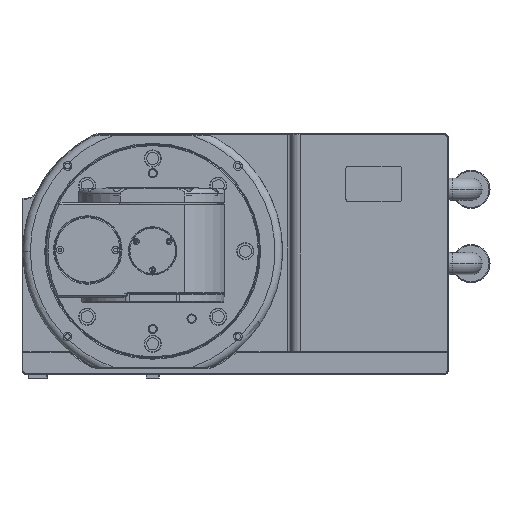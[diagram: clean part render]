
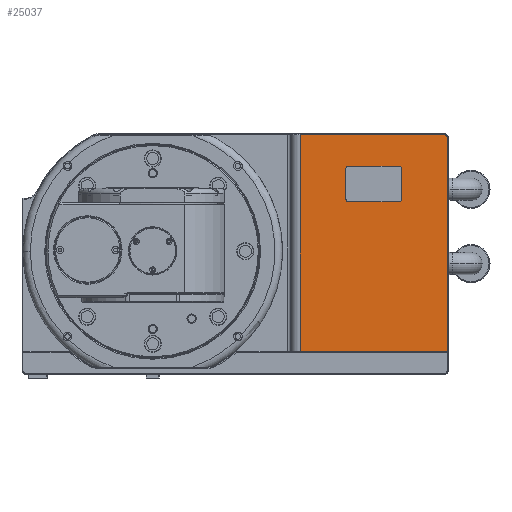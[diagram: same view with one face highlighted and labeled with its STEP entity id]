
A CAD part, top view. The second image highlights one B-rep face of the part: STEP entity #25037.
In plain terms, the highlighted planar face has unit normal (0, 0, 1).
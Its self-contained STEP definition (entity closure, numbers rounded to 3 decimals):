
#832 = ORIENTED_EDGE ( 'NONE', *, *, #24894, .F. ) ;
#1265 = CARTESIAN_POINT ( 'NONE',  ( 234.546, -134.359, 588.147 ) ) ;
#1515 = ORIENTED_EDGE ( 'NONE', *, *, #20523, .T. ) ;
#1592 = ORIENTED_EDGE ( 'NONE', *, *, #24663, .F. ) ;
#1752 = ORIENTED_EDGE ( 'NONE', *, *, #30373, .T. ) ;
#1935 = CARTESIAN_POINT ( 'NONE',  ( 75.546, 99.641, 588.147 ) ) ;
#3014 = EDGE_CURVE ( 'NONE', #8396, #31361, #21159, .T. ) ;
#3156 = CIRCLE ( 'NONE', #13882, 3. ) ;
#3855 = DIRECTION ( 'NONE',  ( 0., 0., -1. ) ) ;
#3971 = VECTOR ( 'NONE', #5570, 1000. ) ;
#4038 = VECTOR ( 'NONE', #18124, 1000. ) ;
#4202 = CARTESIAN_POINT ( 'NONE',  ( 65.546, -134.359, 588.147 ) ) ;
#4252 = CIRCLE ( 'NONE', #29006, 3. ) ;
#4363 = DIRECTION ( 'NONE',  ( -1., 0., 0. ) ) ;
#4537 = VECTOR ( 'NONE', #33795, 1000. ) ;
#4689 = CARTESIAN_POINT ( 'NONE',  ( 230.546, 95.641, 588.147 ) ) ;
#5570 = DIRECTION ( 'NONE',  ( 0., 1., 0. ) ) ;
#5756 = ORIENTED_EDGE ( 'NONE', *, *, #10942, .T. ) ;
#6084 = DIRECTION ( 'NONE',  ( 0., 1., 0. ) ) ;
#6491 = ORIENTED_EDGE ( 'NONE', *, *, #24105, .T. ) ;
#6755 = DIRECTION ( 'NONE',  ( -1., 0., 0. ) ) ;
#7753 = DIRECTION ( 'NONE',  ( 0., 0., -1. ) ) ;
#8276 = EDGE_LOOP ( 'NONE', ( #1515, #37377, #16338, #5756, #1752 ) ) ;
#8396 = VERTEX_POINT ( 'NONE', #33752 ) ;
#8586 = PLANE ( 'NONE',  #22242 ) ;
#9596 = LINE ( 'NONE', #10952, #24865 ) ;
#10313 = CARTESIAN_POINT ( 'NONE',  ( 230.546, 99.641, 588.147 ) ) ;
#10942 = EDGE_CURVE ( 'NONE', #31361, #24350, #31884, .T. ) ;
#10952 = CARTESIAN_POINT ( 'NONE',  ( 125.046, 27.141, 588.147 ) ) ;
#10989 = DIRECTION ( 'NONE',  ( -1., 0., 0. ) ) ;
#11348 = CARTESIAN_POINT ( 'NONE',  ( 234.546, -29.359, 588.147 ) ) ;
#11535 = EDGE_CURVE ( 'NONE', #37412, #20830, #27838, .T. ) ;
#11573 = VERTEX_POINT ( 'NONE', #36932 ) ;
#11701 = EDGE_CURVE ( 'NONE', #35947, #8396, #20117, .T. ) ;
#11949 = DIRECTION ( 'NONE',  ( -1., 0., 0. ) ) ;
#12711 = FACE_BOUND ( 'NONE', #14884, .T. ) ;
#12889 = DIRECTION ( 'NONE',  ( 0., 0., -1. ) ) ;
#13033 = LINE ( 'NONE', #35434, #4038 ) ;
#13469 = CARTESIAN_POINT ( 'NONE',  ( 182.546, 65.641, 588.147 ) ) ;
#13485 = LINE ( 'NONE', #22520, #4537 ) ;
#13844 = CARTESIAN_POINT ( 'NONE',  ( 125.046, 30.141, 588.147 ) ) ;
#13882 = AXIS2_PLACEMENT_3D ( 'NONE', #24206, #12889, #4363 ) ;
#14184 = CARTESIAN_POINT ( 'NONE',  ( 75.546, -134.359, 588.147 ) ) ;
#14389 = LINE ( 'NONE', #18757, #16205 ) ;
#14703 = CARTESIAN_POINT ( 'NONE',  ( 182.546, 62.641, 588.147 ) ) ;
#14884 = EDGE_LOOP ( 'NONE', ( #20997, #6491, #1592, #15691, #26902, #34017, #832, #22558 ) ) ;
#15595 = EDGE_CURVE ( 'NONE', #21100, #24470, #36472, .T. ) ;
#15691 = ORIENTED_EDGE ( 'NONE', *, *, #15595, .T. ) ;
#16205 = VECTOR ( 'NONE', #18881, 1000. ) ;
#16338 = ORIENTED_EDGE ( 'NONE', *, *, #3014, .T. ) ;
#16979 = CARTESIAN_POINT ( 'NONE',  ( 128.046, 65.641, 588.147 ) ) ;
#17030 = CARTESIAN_POINT ( 'NONE',  ( 125.046, 62.641, 588.147 ) ) ;
#17238 = LINE ( 'NONE', #34918, #20794 ) ;
#18124 = DIRECTION ( 'NONE',  ( 0., -1., 0. ) ) ;
#18403 = EDGE_CURVE ( 'NONE', #37158, #20830, #13485, .T. ) ;
#18756 = DIRECTION ( 'NONE',  ( -1., 0., 0. ) ) ;
#18757 = CARTESIAN_POINT ( 'NONE',  ( 125.046, 27.141, 588.147 ) ) ;
#18881 = DIRECTION ( 'NONE',  ( 1., 0., 0. ) ) ;
#19423 = VERTEX_POINT ( 'NONE', #35735 ) ;
#20117 = LINE ( 'NONE', #11348, #3971 ) ;
#20523 = EDGE_CURVE ( 'NONE', #25988, #35947, #22181, .T. ) ;
#20794 = VECTOR ( 'NONE', #6084, 1000. ) ;
#20830 = VERTEX_POINT ( 'NONE', #16979 ) ;
#20833 = DIRECTION ( 'NONE',  ( 0., 0., -1. ) ) ;
#20997 = ORIENTED_EDGE ( 'NONE', *, *, #18403, .F. ) ;
#21100 = VERTEX_POINT ( 'NONE', #32099 ) ;
#21159 = CIRCLE ( 'NONE', #37370, 4. ) ;
#22181 = LINE ( 'NONE', #4202, #30805 ) ;
#22242 = AXIS2_PLACEMENT_3D ( 'NONE', #31363, #26055, #25782 ) ;
#22520 = CARTESIAN_POINT ( 'NONE',  ( 125.046, 65.641, 588.147 ) ) ;
#22558 = ORIENTED_EDGE ( 'NONE', *, *, #11535, .T. ) ;
#24105 = EDGE_CURVE ( 'NONE', #37158, #11573, #4252, .T. ) ;
#24206 = CARTESIAN_POINT ( 'NONE',  ( 128.046, 30.141, 588.147 ) ) ;
#24270 = CARTESIAN_POINT ( 'NONE',  ( 5.546, 99.641, 588.147 ) ) ;
#24350 = VERTEX_POINT ( 'NONE', #1935 ) ;
#24470 = VERTEX_POINT ( 'NONE', #25956 ) ;
#24663 = EDGE_CURVE ( 'NONE', #21100, #11573, #17238, .T. ) ;
#24865 = VECTOR ( 'NONE', #30874, 1000. ) ;
#24894 = EDGE_CURVE ( 'NONE', #37412, #37234, #9596, .T. ) ;
#25037 = ADVANCED_FACE ( 'NONE', ( #12711, #28440 ), #8586, .F. ) ;
#25085 = VECTOR ( 'NONE', #32988, 1000. ) ;
#25782 = DIRECTION ( 'NONE',  ( -1., 0., 0. ) ) ;
#25956 = CARTESIAN_POINT ( 'NONE',  ( 182.546, 27.141, 588.147 ) ) ;
#25988 = VERTEX_POINT ( 'NONE', #14184 ) ;
#26055 = DIRECTION ( 'NONE',  ( 0., 0., -1. ) ) ;
#26884 = AXIS2_PLACEMENT_3D ( 'NONE', #27103, #3855, #6755 ) ;
#26902 = ORIENTED_EDGE ( 'NONE', *, *, #37065, .F. ) ;
#27103 = CARTESIAN_POINT ( 'NONE',  ( 182.546, 30.141, 588.147 ) ) ;
#27406 = AXIS2_PLACEMENT_3D ( 'NONE', #33815, #7753, #10989 ) ;
#27838 = CIRCLE ( 'NONE', #27406, 3. ) ;
#28440 = FACE_OUTER_BOUND ( 'NONE', #8276, .T. ) ;
#29006 = AXIS2_PLACEMENT_3D ( 'NONE', #14703, #20833, #11949 ) ;
#30011 = DIRECTION ( 'NONE',  ( 1., 0., 0. ) ) ;
#30060 = EDGE_CURVE ( 'NONE', #19423, #37234, #3156, .T. ) ;
#30373 = EDGE_CURVE ( 'NONE', #24350, #25988, #13033, .T. ) ;
#30805 = VECTOR ( 'NONE', #30011, 1000. ) ;
#30874 = DIRECTION ( 'NONE',  ( 0., -1., 0. ) ) ;
#31361 = VERTEX_POINT ( 'NONE', #10313 ) ;
#31363 = CARTESIAN_POINT ( 'NONE',  ( 5.546, -29.359, 588.147 ) ) ;
#31884 = LINE ( 'NONE', #24270, #25085 ) ;
#32099 = CARTESIAN_POINT ( 'NONE',  ( 185.546, 30.141, 588.147 ) ) ;
#32988 = DIRECTION ( 'NONE',  ( -1., 0., 0. ) ) ;
#33165 = DIRECTION ( 'NONE',  ( 0., 0., 1. ) ) ;
#33752 = CARTESIAN_POINT ( 'NONE',  ( 234.546, 95.641, 588.147 ) ) ;
#33795 = DIRECTION ( 'NONE',  ( -1., 0., 0. ) ) ;
#33815 = CARTESIAN_POINT ( 'NONE',  ( 128.046, 62.641, 588.147 ) ) ;
#34017 = ORIENTED_EDGE ( 'NONE', *, *, #30060, .T. ) ;
#34918 = CARTESIAN_POINT ( 'NONE',  ( 185.546, 27.141, 588.147 ) ) ;
#35434 = CARTESIAN_POINT ( 'NONE',  ( 75.546, -29.359, 588.147 ) ) ;
#35735 = CARTESIAN_POINT ( 'NONE',  ( 128.046, 27.141, 588.147 ) ) ;
#35947 = VERTEX_POINT ( 'NONE', #1265 ) ;
#36472 = CIRCLE ( 'NONE', #26884, 3. ) ;
#36932 = CARTESIAN_POINT ( 'NONE',  ( 185.546, 62.641, 588.147 ) ) ;
#37065 = EDGE_CURVE ( 'NONE', #19423, #24470, #14389, .T. ) ;
#37158 = VERTEX_POINT ( 'NONE', #13469 ) ;
#37234 = VERTEX_POINT ( 'NONE', #13844 ) ;
#37370 = AXIS2_PLACEMENT_3D ( 'NONE', #4689, #33165, #18756 ) ;
#37377 = ORIENTED_EDGE ( 'NONE', *, *, #11701, .T. ) ;
#37412 = VERTEX_POINT ( 'NONE', #17030 ) ;
